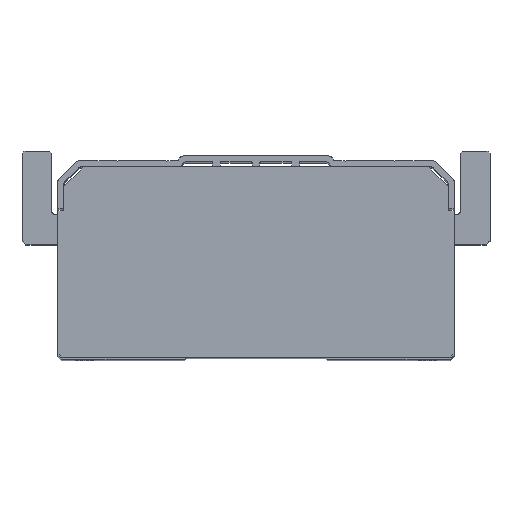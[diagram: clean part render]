
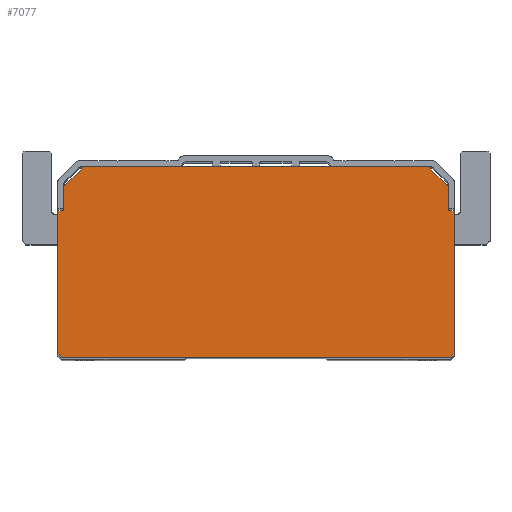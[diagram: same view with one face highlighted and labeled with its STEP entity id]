
A CAD part, top view. The second image highlights one B-rep face of the part: STEP entity #7077.
In plain terms, the highlighted planar face has unit normal (0, 0, 1).
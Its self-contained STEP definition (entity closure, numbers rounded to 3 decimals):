
#13 = EDGE_CURVE ( 'NONE', #12376, #9042, #193, .T. ) ;
#89 = VERTEX_POINT ( 'NONE', #3680 ) ;
#193 = LINE ( 'NONE', #390, #13195 ) ;
#382 = LINE ( 'NONE', #2443, #11007 ) ;
#390 = CARTESIAN_POINT ( 'NONE',  ( -100., 74., 220. ) ) ;
#413 = EDGE_CURVE ( 'NONE', #3610, #9657, #11936, .T. ) ;
#472 = EDGE_CURVE ( 'NONE', #1207, #4144, #8905, .T. ) ;
#553 = EDGE_CURVE ( 'NONE', #5090, #11081, #1509, .T. ) ;
#572 = VECTOR ( 'NONE', #12869, 1000. ) ;
#660 = VERTEX_POINT ( 'NONE', #1906 ) ;
#808 = CARTESIAN_POINT ( 'NONE',  ( -97., 86., 220. ) ) ;
#1004 = ORIENTED_EDGE ( 'NONE', *, *, #413, .T. ) ;
#1174 = VECTOR ( 'NONE', #3044, 1000. ) ;
#1207 = VERTEX_POINT ( 'NONE', #7065 ) ;
#1261 = ORIENTED_EDGE ( 'NONE', *, *, #8655, .T. ) ;
#1448 = DIRECTION ( 'NONE',  ( -1., 0., 0. ) ) ;
#1509 = LINE ( 'NONE', #4073, #1174 ) ;
#1717 = DIRECTION ( 'NONE',  ( 0., 1., 0. ) ) ;
#1761 = LINE ( 'NONE', #12131, #9629 ) ;
#1776 = DIRECTION ( 'NONE',  ( 0., 0., 1. ) ) ;
#1880 = CARTESIAN_POINT ( 'NONE',  ( 97., 86., 220. ) ) ;
#1906 = CARTESIAN_POINT ( 'NONE',  ( -100., 2., 220. ) ) ;
#2081 = PLANE ( 'NONE',  #11922 ) ;
#2149 = ORIENTED_EDGE ( 'NONE', *, *, #7128, .T. ) ;
#2191 = LINE ( 'NONE', #1880, #10056 ) ;
#2443 = CARTESIAN_POINT ( 'NONE',  ( -87., 96., 220. ) ) ;
#2532 = LINE ( 'NONE', #11399, #4948 ) ;
#2869 = DIRECTION ( 'NONE',  ( -0.707, -0.707, 0. ) ) ;
#3006 = LINE ( 'NONE', #4653, #5396 ) ;
#3044 = DIRECTION ( 'NONE',  ( 1., 0., 0. ) ) ;
#3093 = DIRECTION ( 'NONE',  ( -1., 0., 0. ) ) ;
#3098 = EDGE_CURVE ( 'NONE', #9042, #660, #1761, .T. ) ;
#3532 = VECTOR ( 'NONE', #3093, 1000. ) ;
#3541 = DIRECTION ( 'NONE',  ( -1., 0., 0. ) ) ;
#3610 = VERTEX_POINT ( 'NONE', #5212 ) ;
#3680 = CARTESIAN_POINT ( 'NONE',  ( 87., 96., 220. ) ) ;
#3687 = ORIENTED_EDGE ( 'NONE', *, *, #7620, .T. ) ;
#3873 = EDGE_CURVE ( 'NONE', #11200, #3610, #8961, .T. ) ;
#4037 = CARTESIAN_POINT ( 'NONE',  ( 97., 74., 220. ) ) ;
#4073 = CARTESIAN_POINT ( 'NONE',  ( -98., 0., 220. ) ) ;
#4144 = VERTEX_POINT ( 'NONE', #4980 ) ;
#4158 = CARTESIAN_POINT ( 'NONE',  ( -97., 74., 220. ) ) ;
#4295 = EDGE_CURVE ( 'NONE', #11081, #8123, #2532, .T. ) ;
#4653 = CARTESIAN_POINT ( 'NONE',  ( -97., 86., 220. ) ) ;
#4701 = CARTESIAN_POINT ( 'NONE',  ( -100., 74., 220. ) ) ;
#4917 = EDGE_LOOP ( 'NONE', ( #1004, #2149, #8243, #5117, #3687, #9775, #7996, #6770, #5009, #8492, #1261, #5157 ) ) ;
#4948 = VECTOR ( 'NONE', #10374, 1000. ) ;
#4980 = CARTESIAN_POINT ( 'NONE',  ( -97., 86., 220. ) ) ;
#5009 = ORIENTED_EDGE ( 'NONE', *, *, #553, .T. ) ;
#5090 = VERTEX_POINT ( 'NONE', #11695 ) ;
#5117 = ORIENTED_EDGE ( 'NONE', *, *, #472, .T. ) ;
#5157 = ORIENTED_EDGE ( 'NONE', *, *, #3873, .T. ) ;
#5182 = CARTESIAN_POINT ( 'NONE',  ( 97., 74., 220. ) ) ;
#5212 = CARTESIAN_POINT ( 'NONE',  ( 97., 74., 220. ) ) ;
#5396 = VECTOR ( 'NONE', #12816, 1000. ) ;
#5436 = CARTESIAN_POINT ( 'NONE',  ( 100., 2., 220. ) ) ;
#6018 = DIRECTION ( 'NONE',  ( 0., -1., 0. ) ) ;
#6078 = LINE ( 'NONE', #7775, #572 ) ;
#6770 = ORIENTED_EDGE ( 'NONE', *, *, #6786, .T. ) ;
#6786 = EDGE_CURVE ( 'NONE', #660, #5090, #6078, .T. ) ;
#6845 = CARTESIAN_POINT ( 'NONE',  ( 97., 86., 220. ) ) ;
#7043 = CARTESIAN_POINT ( 'NONE',  ( 100., 74., 220. ) ) ;
#7065 = CARTESIAN_POINT ( 'NONE',  ( -87., 96., 220. ) ) ;
#7066 = CARTESIAN_POINT ( 'NONE',  ( 98., 0., 220. ) ) ;
#7077 = ADVANCED_FACE ( 'NONE', ( #10701 ), #2081, .T. ) ;
#7128 = EDGE_CURVE ( 'NONE', #9657, #89, #2191, .T. ) ;
#7620 = EDGE_CURVE ( 'NONE', #4144, #12376, #3006, .T. ) ;
#7775 = CARTESIAN_POINT ( 'NONE',  ( -100., 2., 220. ) ) ;
#7996 = ORIENTED_EDGE ( 'NONE', *, *, #3098, .T. ) ;
#8123 = VERTEX_POINT ( 'NONE', #5436 ) ;
#8243 = ORIENTED_EDGE ( 'NONE', *, *, #10812, .T. ) ;
#8492 = ORIENTED_EDGE ( 'NONE', *, *, #4295, .T. ) ;
#8584 = VECTOR ( 'NONE', #2869, 1000. ) ;
#8655 = EDGE_CURVE ( 'NONE', #8123, #11200, #12707, .T. ) ;
#8905 = LINE ( 'NONE', #808, #8584 ) ;
#8961 = LINE ( 'NONE', #4037, #3532 ) ;
#9042 = VERTEX_POINT ( 'NONE', #4701 ) ;
#9629 = VECTOR ( 'NONE', #6018, 1000. ) ;
#9657 = VERTEX_POINT ( 'NONE', #11570 ) ;
#9775 = ORIENTED_EDGE ( 'NONE', *, *, #13, .T. ) ;
#9992 = VECTOR ( 'NONE', #10110, 1000. ) ;
#10056 = VECTOR ( 'NONE', #12132, 1000. ) ;
#10110 = DIRECTION ( 'NONE',  ( 0., 1., 0. ) ) ;
#10374 = DIRECTION ( 'NONE',  ( 0.707, 0.707, 0. ) ) ;
#10701 = FACE_OUTER_BOUND ( 'NONE', #4917, .T. ) ;
#10812 = EDGE_CURVE ( 'NONE', #89, #1207, #382, .T. ) ;
#11007 = VECTOR ( 'NONE', #3541, 1000. ) ;
#11081 = VERTEX_POINT ( 'NONE', #7066 ) ;
#11200 = VERTEX_POINT ( 'NONE', #12399 ) ;
#11399 = CARTESIAN_POINT ( 'NONE',  ( 100., 2., 220. ) ) ;
#11570 = CARTESIAN_POINT ( 'NONE',  ( 97., 86., 220. ) ) ;
#11695 = CARTESIAN_POINT ( 'NONE',  ( -98., 0., 220. ) ) ;
#11922 = AXIS2_PLACEMENT_3D ( 'NONE', #5182, #1776, #13061 ) ;
#11936 = LINE ( 'NONE', #6845, #12262 ) ;
#12131 = CARTESIAN_POINT ( 'NONE',  ( -100., 74., 220. ) ) ;
#12132 = DIRECTION ( 'NONE',  ( -0.707, 0.707, 0. ) ) ;
#12262 = VECTOR ( 'NONE', #1717, 1000. ) ;
#12376 = VERTEX_POINT ( 'NONE', #4158 ) ;
#12399 = CARTESIAN_POINT ( 'NONE',  ( 100., 74., 220. ) ) ;
#12707 = LINE ( 'NONE', #7043, #9992 ) ;
#12816 = DIRECTION ( 'NONE',  ( 0., -1., 0. ) ) ;
#12869 = DIRECTION ( 'NONE',  ( 0.707, -0.707, 0. ) ) ;
#13061 = DIRECTION ( 'NONE',  ( 1., 0., 0. ) ) ;
#13195 = VECTOR ( 'NONE', #1448, 1000. ) ;
